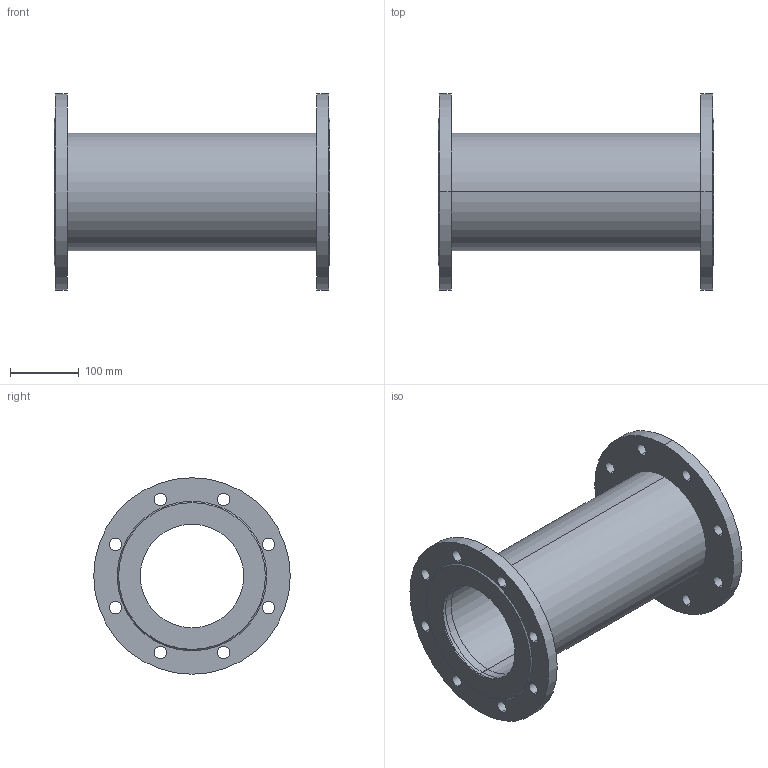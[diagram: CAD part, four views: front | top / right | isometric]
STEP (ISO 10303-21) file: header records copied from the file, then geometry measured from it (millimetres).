
FILE_DESCRIPTION(('STEP AP214'),'1');
FILE_NAME('U:/VDI-Daten/8500/8500_PN16_DN150_L400.STP','2012-06-12T15:16:35',(' '),(' '),'Spatial InterOp 3D',' ',' ');
FILE_SCHEMA(('automotive_design'));
Length unit declared in the file: millimetre
Products named in the file (5): 3D-Objekt
Bounding box: 400 x 285 x 285 mm (x, y, z)
Volume: 3508709.2 mm3; surface area: 715542.4 mm2
Topology: 5 solids, 5 shells, 62 faces, 156 edges, 104 vertices
Faces by surface type: cylinder 48, plane 10, cone 4
Entity records: 2621 total; most frequent: DIRECTION 394, CARTESIAN_POINT 327, ORIENTED_EDGE 312, AXIS2_PLACEMENT_3D 171, EDGE_CURVE 156, EDGE_LOOP 104, VERTEX_POINT 104, CIRCLE 104
